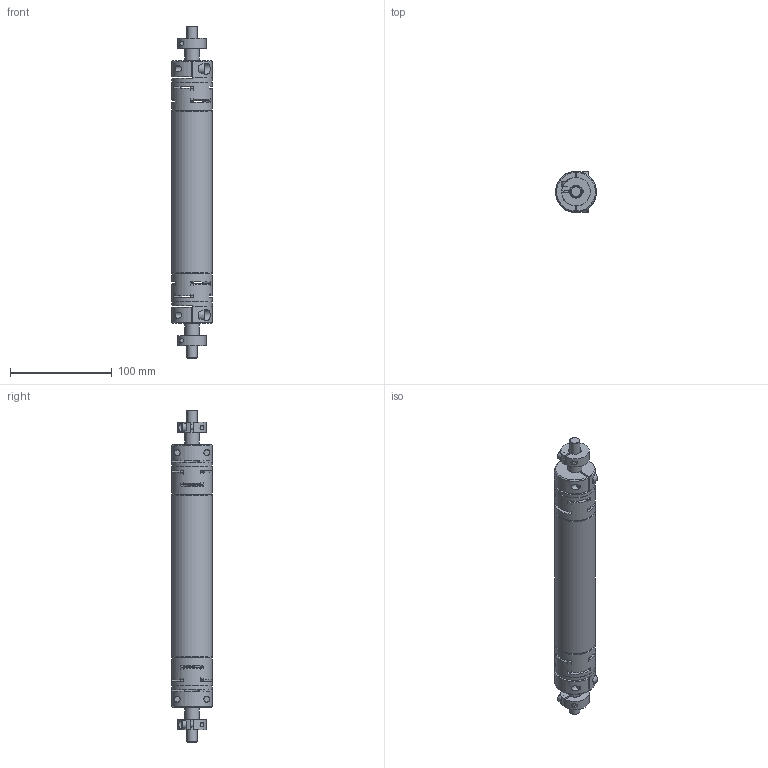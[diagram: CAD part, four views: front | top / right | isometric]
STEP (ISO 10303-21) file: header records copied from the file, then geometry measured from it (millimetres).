
FILE_DESCRIPTION(/* description */ ('Dummy'),/* implementation_level */ '2;1');
FILE_NAME(/* name */ 'D:\InventorWorkspace2019\CAD\_lokale konstruktionen\VerbWelleHLR070\0232.910-0350.stp',/* time_stamp */ '2020-04-14T16:09:48+02:00',/* author */ ('AR64535'),/* organization */ (''),/* preprocessor_version */ 'ST-DEVELOPER v17.2',/* originating_system */ 'Autodesk Inventor 2019',/* authorisation */ '');
FILE_SCHEMA (('AUTOMOTIVE_DESIGN { 1 0 10303 214 3 1 1 }'));
Length unit declared in the file: millimetre
Products named in the file (8): 0241910-XXXX_HLR070; 0241.910-XXXX; ROTEX GS19 ZR3_Klemmnabe D14; ROTEX GS19 ZR3_Rohr; 0232.007-02; 0231.029; 0231.012-01; 130-302319
Assembly tree (11 placements, depth 3):
  0241910-XXXX_HLR070
    0241.910-XXXX
      ROTEX GS19 ZR3_Klemmnabe D14  x2
      ROTEX GS19 ZR3_Rohr
    0232.007-02
      0231.029  x2
      0231.012-01  x2
      130-302319  x2
Bounding box: 40 x 40 x 326 mm (x, y, z)
Volume: 168407.9 mm3; surface area: 84620.4 mm2
Topology: 9 solids, 9 shells, 430 faces, 1260 edges, 858 vertices
Faces by surface type: cylinder 178, plane 156, cone 92, torus 4
Full cylindrical faces by diameter (mm): 3 x12, 4.134 x2, 5 x2, 5.3 x2, 6 x4, 6.6 x8, 8.5 x2, 10 x6, 14 x4, 18 x4, 22 x2, 34 x1, 39.4 x2, 40 x3
Entity records: 8244 total; most frequent: CARTESIAN_POINT 2097, ORIENTED_EDGE 1268, DIRECTION 1244, EDGE_CURVE 634, AXIS2_PLACEMENT_3D 516, VERTEX_POINT 432, CIRCLE 279, EDGE_LOOP 256
